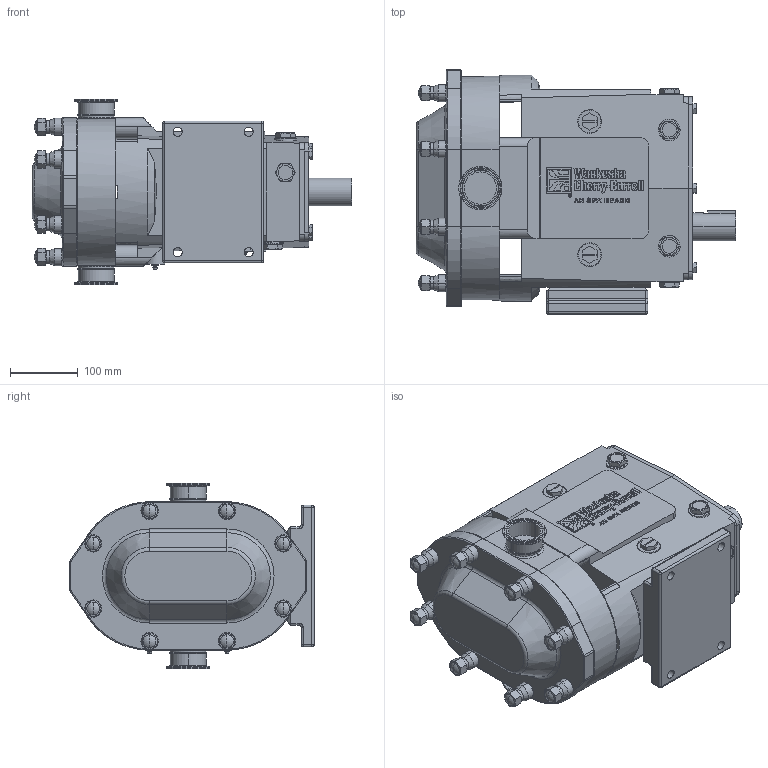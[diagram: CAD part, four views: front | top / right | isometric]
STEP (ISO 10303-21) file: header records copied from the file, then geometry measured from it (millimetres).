
FILE_DESCRIPTION (( 'STEP AP203' ), '1' );
FILE_NAME ('Joined_045_U2_Lower Shaft.STEP', '2008-03-06T11:43:26', ( '' ), ( '' ), 'SwSTEP 2.0', 'SolidWorks 2006233', '' );
FILE_SCHEMA (( 'CONFIG_CONTROL_DESIGN' ));
Length unit declared in the file: inch
Products named in the file (1): Joined_045_U2_Lower Shaft
Bounding box: 471.89 x 360.3 x 274.17 mm (x, y, z)
Volume: 19474608.2 mm3; surface area: 740961.8 mm2
Topology: 1 solids, 23 shells, 1555 faces, 3833 edges, 2398 vertices
Faces by surface type: plane 746, cylinder 311, cone 293, bspline 111, torus 70, sphere 24
Entity records: 48455 total; most frequent: CARTESIAN_POINT 12770, ORIENTED_EDGE 7530, DIRECTION 7026, EDGE_CURVE 3765, AXIS2_PLACEMENT_3D 2430, VERTEX_POINT 2398, LINE 2166, VECTOR 2166
